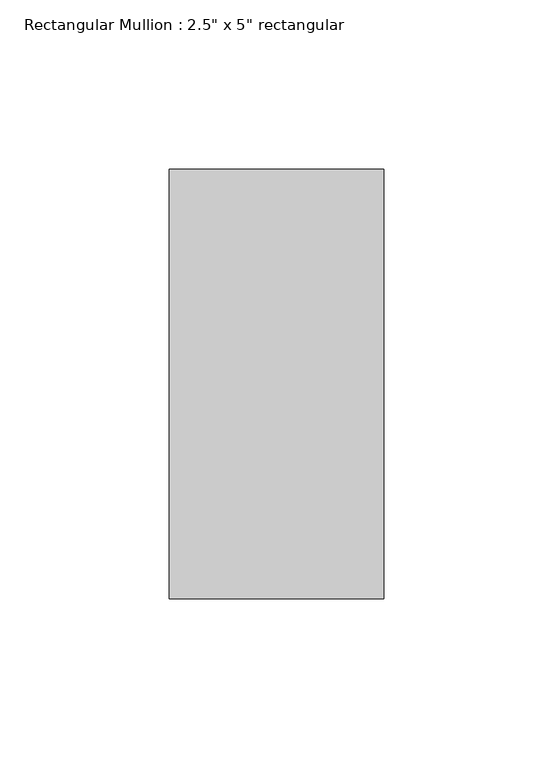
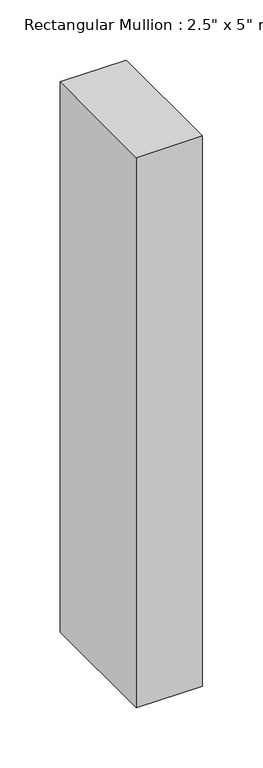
"""IFC4 building model written with IfcOpenShell, lengths in millimetres: member geometry."""

from ifc_helpers import new_model, si_unit, frame, origin, place, context, project, spatial, polyline, outline, extrude, source, transform, mapped, element, save


def member_bffc1e8b(model_context):
    return source(origin(), model_context, "Body", "SweptSolid", [
        extrude(outline(polyline([(0.0, 76.2), (0.0, -50.8), (-63.5, -50.8), (-63.5, 76.2), (0.0, 76.2)])), frame((0.0, 0.0, -558.8), z_axis=(0.0, 0.0, 1.0), x_axis=(1.0, 0.0, 0.0)), (0.0, 0.0, 1.0), 558.8),
    ])


if __name__ == "__main__":
    model = new_model("IFC4")
    model_context = context("Model", 3, world=origin())
    ifc_project = project(units=[si_unit("LENGTHUNIT", "METRE", prefix="MILLI")], contexts=[model_context])
    site = spatial("IfcSite", under=ifc_project)
    building = spatial("IfcBuilding", under=site)
    placement = place(None, origin())
    member_shape = member_bffc1e8b(model_context)
    element("IfcMember", 1, ObjectType="Rectangular Mullion : 2.5\" x 5\" rectangular", at=placement, inside=building, context=model_context, shape_type="MappedRepresentation", body=[
        mapped(member_shape, transform((0.0, 0.0, 0.0), x_axis=(1.0, 0.0, 0.0), y_axis=(0.0, 1.0, 0.0), z_axis=(0.0, 0.0, 1.0))),
    ])
    save(model, "model.ifc")
